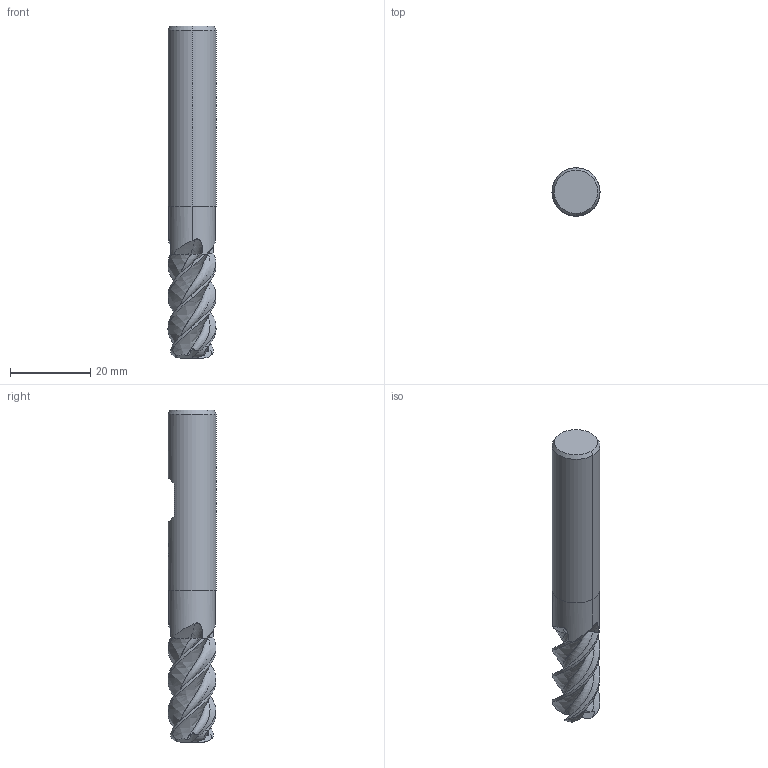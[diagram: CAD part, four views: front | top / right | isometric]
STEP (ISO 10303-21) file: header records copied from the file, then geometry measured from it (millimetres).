
FILE_DESCRIPTION(('no description'),'unknown implementation level');
FILE_NAME('solidWosJM6kFtQEiP7S2Zf6ZUUTU8yM_1.STP',' ',('CIMSOURCE GmbH'),('CADClick - KiM GmbH - www.kimweb.de'),'unknown preprocess','ACIS','unknown authorization');
FILE_SCHEMA(('automotive_design'));
Length unit declared in the file: millimetre
Products named in the file (2): 1; 2
Bounding box: 12 x 12 x 83 mm (x, y, z)
Volume: 7763.9 mm3; surface area: 3632.4 mm2
Topology: 2 solids, 2 shells, 91 faces, 258 edges, 171 vertices
Faces by surface type: plane 34, bspline 16, cone 12, revolution 12, cylinder 11, torus 6
Entity records: 15122 total; most frequent: CARTESIAN_POINT 10085, STYLED_ITEM 522, PRESENTATION_STYLE_ASSIGNMENT 522, COLOUR_RGB 522, ORIENTED_EDGE 516, DIRECTION 329, EDGE_CURVE 258, CURVE_STYLE 258
